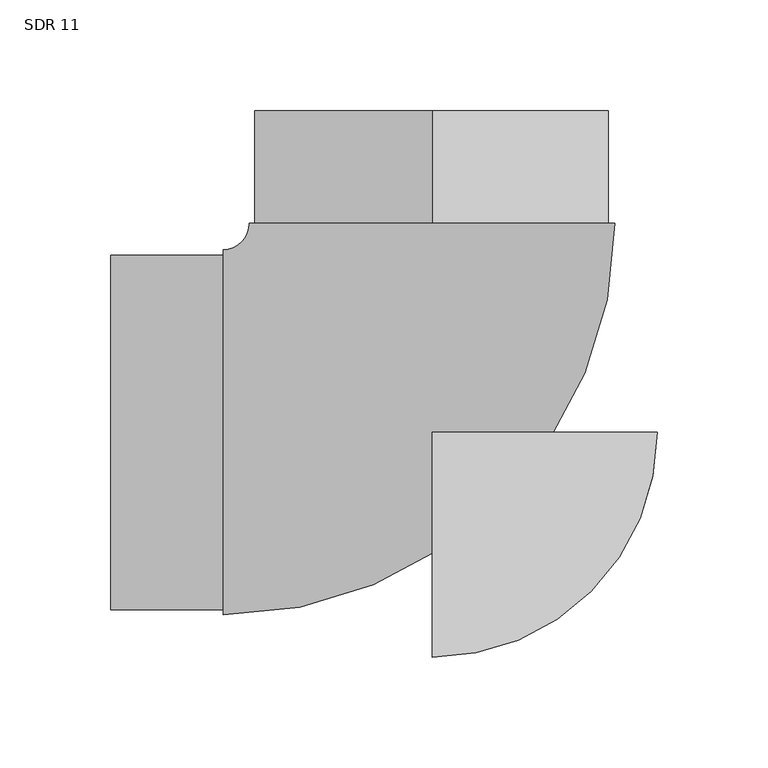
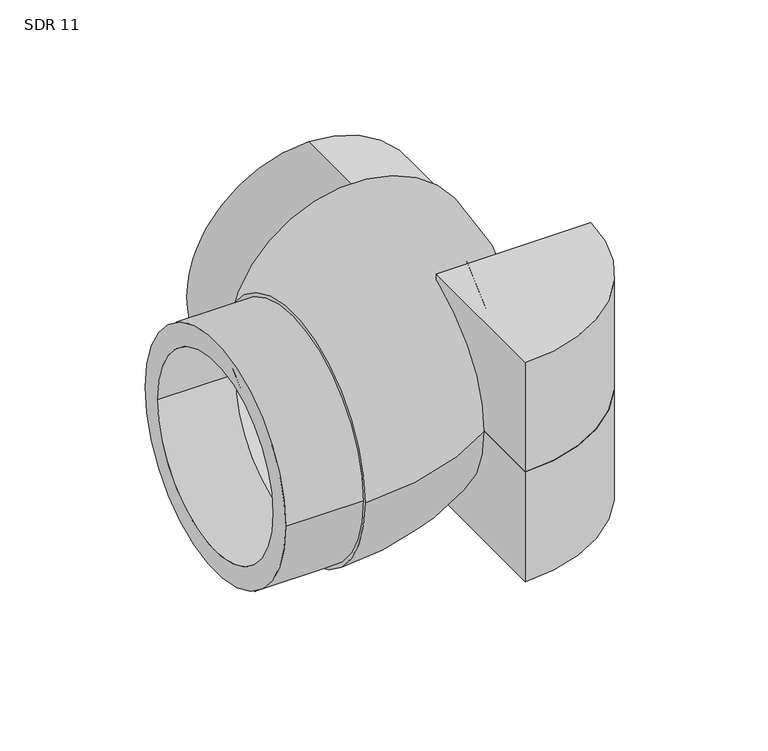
"""IFC4 building model written with IfcOpenShell, lengths in millimetres: pipe fitting geometry, Aquatherm - Elbow BW Molded : SDR 11."""

from ifc_helpers import new_model, si_unit, point, frame, frame_2d, origin, origin_with_axes, origin_2d, place, context, project, spatial, polyline, circle_curve, ellipse_curve, trimmed, segment, composite_curve, outline, extrude, source, transform, mapped, element, save
from ifc_brep_helpers import plane_surface, revolved_surface, advanced_brep


def sdr_11_461effd5(model_context):
    return source(origin(), model_context, "Body", "SolidModel", [
        extrude(outline(composite_curve([segment(polyline([(0.0, -101.6), (0.0, 0.0), (101.5999999, 0.0049065)]), True, "CONTINUOUS"), segment(trimmed(circle_curve(origin_2d(), 101.6), [point((101.5999999, 0.0049065))], [point((0.0, -101.6))], False, "CARTESIAN"), True, "CONTINUOUS")], self_intersect=False)), frame((0.0, 0.0, -76.2), z_axis=(0.0, 0.0, 1.0), x_axis=(1.0, 0.0, 0.0)), (0.0, 0.0, 1.0), 76.2),
        extrude(outline(composite_curve([segment(trimmed(circle_curve(origin_2d(), 101.6), [point((101.5999999, 0.0049065))], [point((0.0, -101.6))], False, "CARTESIAN"), True, "CONTINUOUS"), segment(polyline([(0.0, -101.6), (0.0, 0.0), (101.5999999, 0.0049065)]), True, "CONTINUOUS")], self_intersect=False)), origin_with_axes(), (0.0, 0.0, 1.0), 76.2),
        extrude(outline(composite_curve([segment(trimmed(circle_curve(frame_2d((0.0, -80.01)), 80.01), [point((0.0, -160.02))], [point((0.0, 0.0))], False, "CARTESIAN"), True, "CONTINUOUS"), segment(trimmed(circle_curve(frame_2d((0.0, -80.01)), 80.01), [point((0.0, 0.0))], [point((0.0, -160.02))], False, "CARTESIAN"), True, "CONTINUOUS")], self_intersect=False), holes=[composite_curve([segment(trimmed(circle_curve(frame_2d((0.0, -80.01)), 65.4627273), [point((0.0, -145.4727273))], [point((0.0, -14.5472727))], True, "CARTESIAN"), True, "CONTINUOUS"), segment(trimmed(circle_curve(frame_2d((0.0, -80.01)), 65.4627273), [point((0.0, -14.5472727))], [point((0.0, -145.4727273))], True, "CARTESIAN"), True, "CONTINUOUS")], self_intersect=False)]), frame((-0.0045526, 94.2720999, 80.01), z_axis=(-4.82922774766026e-05, 0.9999999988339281, 0.0), x_axis=(-0.9999999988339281, -4.82922774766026e-05, 0.0)), (0.0, 0.0, 1.0), 50.7619),
        extrude(outline(composite_curve([segment(trimmed(circle_curve(frame_2d((-0.1496481, 0.0)), 80.01), [point((79.8603519, 0.0))], [point((-80.1596481, 0.0))], False, "CARTESIAN"), True, "CONTINUOUS"), segment(trimmed(circle_curve(frame_2d((-0.1496481, 0.0)), 80.01), [point((-80.1596481, 0.0))], [point((79.8603519, 0.0))], False, "CARTESIAN"), True, "CONTINUOUS")], self_intersect=False), holes=[composite_curve([segment(trimmed(circle_curve(origin_2d(), 65.4627273), [point((65.4627273, 0.0))], [point((-65.4627273, 0.0))], True, "CARTESIAN"), True, "CONTINUOUS"), segment(trimmed(circle_curve(origin_2d(), 65.4627273), [point((-65.4627273, 0.0))], [point((65.4627273, 0.0))], True, "CARTESIAN"), True, "CONTINUOUS")], self_intersect=False)]), frame((-145.034, 0.0, 0.0), z_axis=(1.0, 0.0, 0.0), x_axis=(0.0, 1.0, 0.0)), (0.0, 0.0, 1.0), 50.7619),
        advanced_brep(
        [(-94.2721, -82.4103, 0.0), (-94.2721, 82.4103, 0.0), (-94.2721, -65.4627273, 0.0), (-94.2721, 65.4627273, 0.0), (82.4057473, 94.2760797, 0.0), (-82.4148525, 94.2681201, 0.0), (65.4581746, 94.2752612, 0.0), (-65.4672798, 94.2689385, 0.0)],
        [
            (0, 1, circle_curve(frame((-94.2721, 0.0, 0.0), z_axis=(-1.0, 0.0, 0.0), x_axis=(0.0, 1.0, 0.0)), 82.4103)),
            (1, 0, circle_curve(frame((-94.2721, 0.0, 0.0), z_axis=(-1.0, 0.0, 0.0), x_axis=(0.0, 1.0, 0.0)), 82.4103)),
            (2, 3, circle_curve(frame((-94.2721, 0.0, 0.0), z_axis=(1.0, 0.0, 0.0), x_axis=(0.0, 1.0, 0.0)), 65.4627273)),
            (3, 2, circle_curve(frame((-94.2721, 0.0, 0.0), z_axis=(1.0, 0.0, 0.0), x_axis=(0.0, 1.0, 0.0)), 65.4627273)),
            (4, 5, circle_curve(frame((-0.0045526, 94.2720999, 0.0), z_axis=(-4.8292277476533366e-05, 0.999999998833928, 0.0), x_axis=(-0.999999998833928, -4.8292277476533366e-05, 0.0)), 82.4103)),
            (5, 4, circle_curve(frame((-0.0045526, 94.2720999, 0.0), z_axis=(-4.8292277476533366e-05, 0.999999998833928, 0.0), x_axis=(-0.999999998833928, -4.8292277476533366e-05, 0.0)), 82.4103)),
            (6, 7, circle_curve(frame((-0.0045526, 94.2720999, 0.0), z_axis=(4.8292277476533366e-05, -0.999999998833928, 0.0), x_axis=(-0.999999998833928, -4.8292277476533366e-05, 0.0)), 65.4627273)),
            (7, 6, circle_curve(frame((-0.0045526, 94.2720999, 0.0), z_axis=(4.8292277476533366e-05, -0.999999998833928, 0.0), x_axis=(-0.999999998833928, -4.8292277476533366e-05, 0.0)), 65.4627273)),
            (5, 1, circle_curve(frame((-94.2721, 94.2675475, 0.0), z_axis=(0.0, 0.0, -1.0), x_axis=(0.0, -1.0, 0.0)), 11.8572475)),
            (0, 4, circle_curve(frame((-94.2721, 94.2675475, 0.0), z_axis=(0.0, 0.0, 1.0), x_axis=(0.0, -1.0, 0.0)), 176.6778475)),
            (7, 3, circle_curve(frame((-94.2721, 94.2675475, 0.0), z_axis=(0.0, 0.0, -1.0), x_axis=(0.0, -1.0, 0.0)), 28.8048202)),
            (2, 6, circle_curve(frame((-94.2721, 94.2675475, 0.0), z_axis=(0.0, 0.0, 1.0), x_axis=(0.0, -1.0, 0.0)), 159.7302748)),
        ],
        [
            plane_surface(frame((-94.2721, 0.0, 0.0), z_axis=(-1.0, 0.0, 0.0), x_axis=(0.0, 0.0, 1.0))),
            plane_surface(frame((-0.0045526, 94.2720999, 0.0), z_axis=(-4.829227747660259e-05, 0.999999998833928, 0.0), x_axis=(0.0, 0.0, 1.0))),
            revolved_surface(trimmed(ellipse_curve(frame((-94.2721, 0.0, 0.0), z_axis=(-1.0, 0.0, 0.0), x_axis=(0.0, 1.0, 0.0)), 82.4103, 82.4103), [point((-94.2721, -82.4103, 0.0))], [point((-94.2721, 82.4103, 0.0))], True, "CARTESIAN"), (-94.2721, 94.2675475, 0.0), (0.0, 0.0, 1.0)),
            revolved_surface(trimmed(ellipse_curve(frame((-94.2721, 0.0, 0.0), z_axis=(-1.0, 0.0, 0.0), x_axis=(0.0, 1.0, 0.0)), 82.4103, 82.4103), [point((-94.2721, 82.4103, 0.0))], [point((-94.2721, -82.4103, 0.0))], True, "CARTESIAN"), (-94.2721, 94.2675475, 0.0), (0.0, 0.0, 1.0)),
            revolved_surface(trimmed(ellipse_curve(frame((-94.2721, 0.0, 0.0), z_axis=(1.0, 0.0, 0.0), x_axis=(0.0, 1.0, 0.0)), 65.4627273, 65.4627273), [point((-94.2721, -65.4627273, 0.0))], [point((-94.2721, 65.4627273, 0.0))], True, "CARTESIAN"), (-94.2721, 94.2675475, 0.0), (0.0, 0.0, 1.0)),
            revolved_surface(trimmed(ellipse_curve(frame((-94.2721, 0.0, 0.0), z_axis=(1.0, 0.0, 0.0), x_axis=(0.0, 1.0, 0.0)), 65.4627273, 65.4627273), [point((-94.2721, 65.4627273, 0.0))], [point((-94.2721, -65.4627273, 0.0))], True, "CARTESIAN"), (-94.2721, 94.2675475, 0.0), (0.0, 0.0, 1.0)),
        ],
        [
            (0, [[1, 2], [3, 4]]),
            (1, [[5, 6], [7, 8]]),
            (2, [[9, -1, 10, -6]]),
            (3, [[-10, -2, -9, -5]]),
            (4, [[11, -3, 12, -8]]),
            (5, [[-12, -4, -11, -7]]),
        ],
    ),
    ])


if __name__ == "__main__":
    model = new_model("IFC4")
    model_context = context("Model", 3, world=origin())
    ifc_project = project(units=[si_unit("LENGTHUNIT", "METRE", prefix="MILLI")], contexts=[model_context])
    site = spatial("IfcSite", under=ifc_project)
    building = spatial("IfcBuilding", under=site)
    placement = place(None, origin())
    sdr_11_shape = sdr_11_461effd5(model_context)
    element("IfcPipeFitting", 1, ObjectType="Aquatherm - Elbow BW Molded : SDR 11", at=placement, inside=building, context=model_context, shape_type="MappedRepresentation", body=[
        mapped(sdr_11_shape, transform((0.0, 0.0, 0.0), x_axis=(1.0, 0.0, 0.0), y_axis=(0.0, 1.0, 0.0), z_axis=(0.0, 0.0, 1.0))),
    ])
    save(model, "model.ifc")
